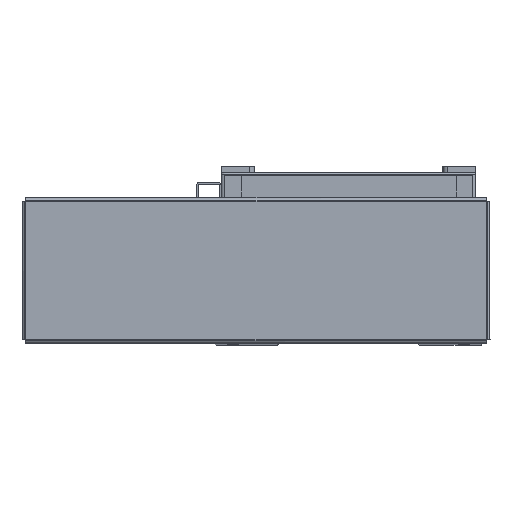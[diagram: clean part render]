
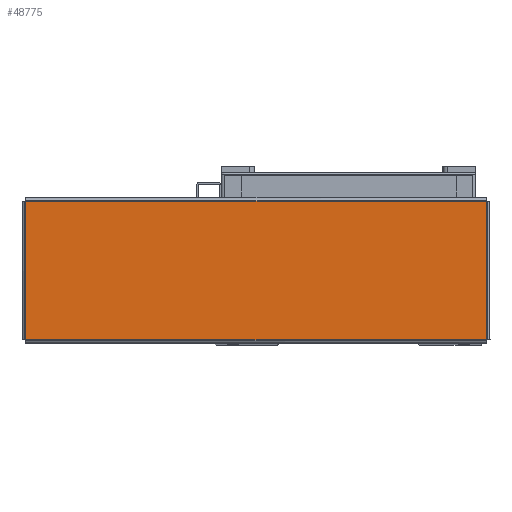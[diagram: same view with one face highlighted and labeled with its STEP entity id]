
A CAD part, top view. The second image highlights one B-rep face of the part: STEP entity #48775.
In plain terms, the highlighted planar face has unit normal (0, 0, 1) as drawn and (0, -1, 0) by its records, which use the part's own axes.
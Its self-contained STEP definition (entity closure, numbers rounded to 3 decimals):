
#189 = VERTEX_POINT ( 'NONE', #34159 ) ;
#243 = VERTEX_POINT ( 'NONE', #34185 ) ;
#305 = VERTEX_POINT ( 'NONE', #34208 ) ;
#319 = VERTEX_POINT ( 'NONE', #34182 ) ;
#1360 = FACE_OUTER_BOUND ( 'NONE', #43247, .T. ) ;
#4008 = ORIENTED_EDGE ( 'NONE', *, *, #39834, .T. ) ;
#4095 = ORIENTED_EDGE ( 'NONE', *, *, #39870, .T. ) ;
#4101 = ORIENTED_EDGE ( 'NONE', *, *, #39866, .T. ) ;
#4110 = ORIENTED_EDGE ( 'NONE', *, *, #39841, .T. ) ;
#4957 = PLANE ( 'NONE',  #32114 ) ;
#5018 = CARTESIAN_POINT ( 'NONE',  ( 0., -1.5, 0. ) ) ;
#5021 = DIRECTION ( 'NONE',  ( 0., 1., 0. ) ) ;
#5025 = DIRECTION ( 'NONE',  ( 0., 0., 1. ) ) ;
#25432 = LINE ( 'NONE', #26675, #25477 ) ;
#25468 = LINE ( 'NONE', #26667, #25531 ) ;
#25477 = VECTOR ( 'NONE', #26658, 1000. ) ;
#25504 = LINE ( 'NONE', #26758, #25506 ) ;
#25506 = VECTOR ( 'NONE', #26747, 1000. ) ;
#25510 = LINE ( 'NONE', #26754, #25513 ) ;
#25513 = VECTOR ( 'NONE', #26787, 1000. ) ;
#25531 = VECTOR ( 'NONE', #26680, 1000. ) ;
#26658 = DIRECTION ( 'NONE',  ( 0., 0., 1. ) ) ;
#26667 = CARTESIAN_POINT ( 'NONE',  ( 139.293, -1.5, 41.763 ) ) ;
#26675 = CARTESIAN_POINT ( 'NONE',  ( 139.263, -1.5, -41.793 ) ) ;
#26680 = DIRECTION ( 'NONE',  ( -1., 0., 0. ) ) ;
#26747 = DIRECTION ( 'NONE',  ( 1., 0., 0. ) ) ;
#26754 = CARTESIAN_POINT ( 'NONE',  ( -139.263, -1.5, 41.793 ) ) ;
#26758 = CARTESIAN_POINT ( 'NONE',  ( -139.293, -1.5, -41.763 ) ) ;
#26787 = DIRECTION ( 'NONE',  ( 0., 0., -1. ) ) ;
#32114 = AXIS2_PLACEMENT_3D ( 'NONE', #5018, #5021, #5025 ) ;
#34159 = CARTESIAN_POINT ( 'NONE',  ( 139.263, -1.5, -41.763 ) ) ;
#34182 = CARTESIAN_POINT ( 'NONE',  ( -139.263, -1.5, 41.763 ) ) ;
#34185 = CARTESIAN_POINT ( 'NONE',  ( -139.263, -1.5, -41.763 ) ) ;
#34208 = CARTESIAN_POINT ( 'NONE',  ( 139.263, -1.5, 41.763 ) ) ;
#39834 = EDGE_CURVE ( 'NONE', #189, #305, #25432, .T. ) ;
#39841 = EDGE_CURVE ( 'NONE', #305, #319, #25468, .T. ) ;
#39866 = EDGE_CURVE ( 'NONE', #243, #189, #25504, .T. ) ;
#39870 = EDGE_CURVE ( 'NONE', #319, #243, #25510, .T. ) ;
#43247 = EDGE_LOOP ( 'NONE', ( #4008, #4110, #4095, #4101 ) ) ;
#48775 = ADVANCED_FACE ( 'NONE', ( #1360 ), #4957, .F. ) ;
